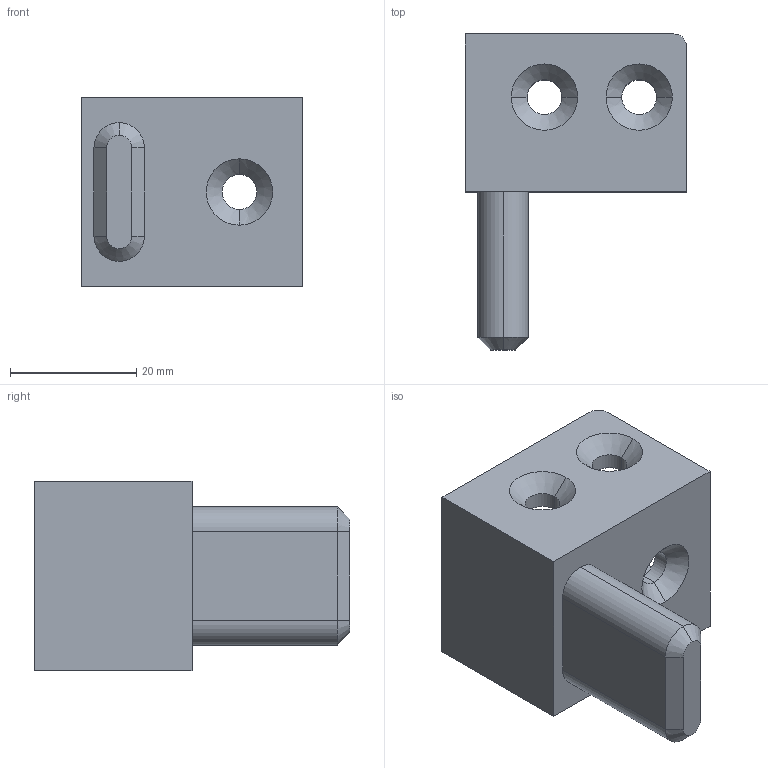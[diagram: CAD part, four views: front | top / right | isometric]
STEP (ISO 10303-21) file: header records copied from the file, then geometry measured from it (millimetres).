
FILE_DESCRIPTION (( 'STEP AP214' ), '1' );
FILE_NAME ('蟀諉璃3.STEP', '2023-05-04T09:15:58', ( 'ay' ), ( '' ), 'SwSTEP 2.0', 'SolidWorks 2020', '' );
FILE_SCHEMA (( 'AUTOMOTIVE_DESIGN' ));
Length unit declared in the file: millimetre
Products named in the file (1): 蟀諉璃3
Bounding box: 35 x 50 x 30 mm (x, y, z)
Volume: 17209.8 mm3; surface area: 7903.2 mm2
Topology: 1 solids, 1 shells, 43 faces, 105 edges, 65 vertices
Faces by surface type: cylinder 15, plane 15, cone 13
Entity records: 1316 total; most frequent: DIRECTION 236, CARTESIAN_POINT 214, ORIENTED_EDGE 210, EDGE_CURVE 105, AXIS2_PLACEMENT_3D 87, VERTEX_POINT 65, LINE 62, VECTOR 62
